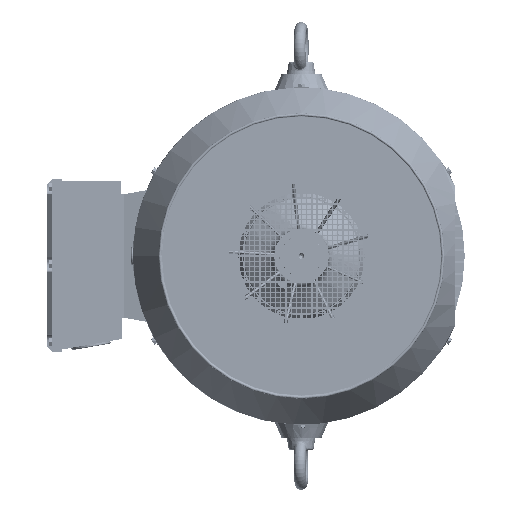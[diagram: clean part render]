
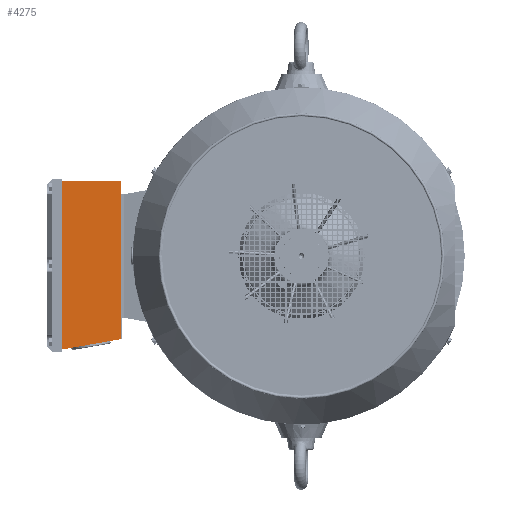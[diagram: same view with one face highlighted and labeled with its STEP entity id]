
A CAD part, left-side view. The second image highlights one B-rep face of the part: STEP entity #4275.
In plain terms, the highlighted planar face has unit normal (-1, 0, 0) as drawn and (0, 0, -1) by its records, which use the part's own axes.
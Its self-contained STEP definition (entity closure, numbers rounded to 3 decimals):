
#4275 = ADVANCED_FACE ( 'NONE', ( #197686 ), #17307, .F. ) ;
#13411 = VERTEX_POINT ( 'NONE', #21073 ) ;
#14671 = CARTESIAN_POINT ( 'NONE',  ( 26., 122., -140. ) ) ;
#17307 = PLANE ( 'NONE',  #34552 ) ;
#21073 = CARTESIAN_POINT ( 'NONE',  ( 0., 3., -140. ) ) ;
#25575 = ORIENTED_EDGE ( 'NONE', *, *, #44880, .F. ) ;
#31191 = LINE ( 'NONE', #51272, #185042 ) ;
#31240 = CARTESIAN_POINT ( 'NONE',  ( 0., 3., -140. ) ) ;
#34552 = AXIS2_PLACEMENT_3D ( 'NONE', #14671, #56134, #96143 ) ;
#44164 = VERTEX_POINT ( 'NONE', #70309 ) ;
#44880 = EDGE_CURVE ( 'NONE', #111864, #183254, #31191, .T. ) ;
#51272 = CARTESIAN_POINT ( 'NONE',  ( 318.5, 0., -140. ) ) ;
#56134 = DIRECTION ( 'NONE',  ( 0., 0., 1. ) ) ;
#70309 = CARTESIAN_POINT ( 'NONE',  ( 0., 122., -140. ) ) ;
#73909 = DIRECTION ( 'NONE',  ( 0.174, 0.985, 0. ) ) ;
#80048 = CARTESIAN_POINT ( 'NONE',  ( 0., 3., -140. ) ) ;
#90320 = EDGE_CURVE ( 'NONE', #183254, #44164, #237334, .T. ) ;
#91309 = CARTESIAN_POINT ( 'NONE',  ( 319.029, 3., -140. ) ) ;
#96143 = DIRECTION ( 'NONE',  ( 1., 0., 0. ) ) ;
#111864 = VERTEX_POINT ( 'NONE', #91309 ) ;
#131592 = VECTOR ( 'NONE', #175908, 1000. ) ;
#138460 = CARTESIAN_POINT ( 'NONE',  ( 0., 122., -140. ) ) ;
#147277 = ORIENTED_EDGE ( 'NONE', *, *, #227533, .F. ) ;
#147979 = EDGE_CURVE ( 'NONE', #13411, #111864, #230336, .T. ) ;
#159154 = ORIENTED_EDGE ( 'NONE', *, *, #147979, .F. ) ;
#175908 = DIRECTION ( 'NONE',  ( -1., 0., 0. ) ) ;
#183254 = VERTEX_POINT ( 'NONE', #227684 ) ;
#185042 = VECTOR ( 'NONE', #73909, 1000. ) ;
#197686 = FACE_OUTER_BOUND ( 'NONE', #218601, .T. ) ;
#202893 = DIRECTION ( 'NONE',  ( 0., -1., 0. ) ) ;
#214061 = VECTOR ( 'NONE', #202893, 1000. ) ;
#218601 = EDGE_LOOP ( 'NONE', ( #25575, #159154, #147277, #223289 ) ) ;
#223289 = ORIENTED_EDGE ( 'NONE', *, *, #90320, .F. ) ;
#227533 = EDGE_CURVE ( 'NONE', #44164, #13411, #262965, .T. ) ;
#227684 = CARTESIAN_POINT ( 'NONE',  ( 340.012, 122., -140. ) ) ;
#230336 = LINE ( 'NONE', #31240, #256439 ) ;
#232952 = DIRECTION ( 'NONE',  ( 1., 0., 0. ) ) ;
#237334 = LINE ( 'NONE', #138460, #131592 ) ;
#256439 = VECTOR ( 'NONE', #232952, 1000. ) ;
#262965 = LINE ( 'NONE', #80048, #214061 ) ;
